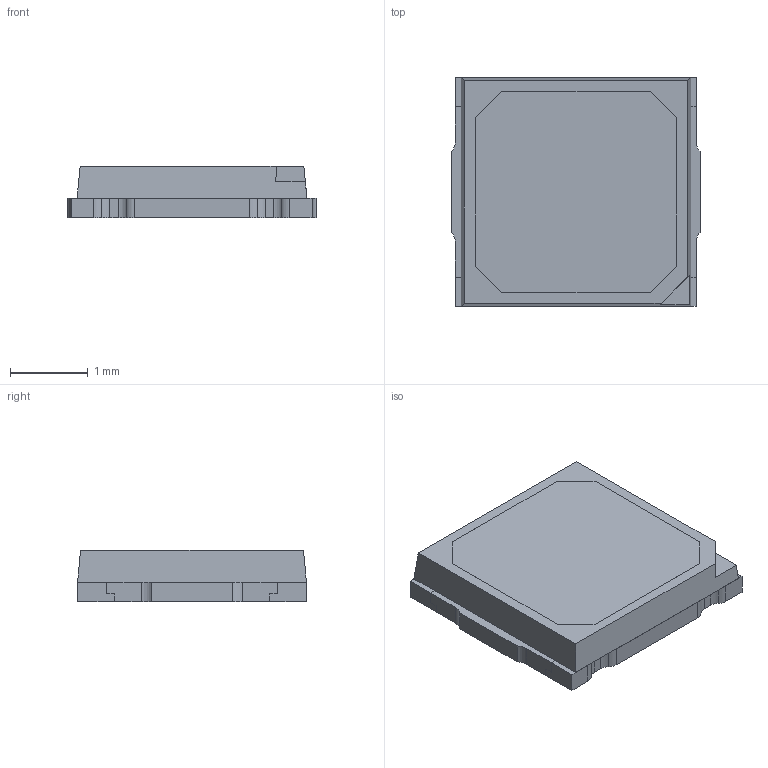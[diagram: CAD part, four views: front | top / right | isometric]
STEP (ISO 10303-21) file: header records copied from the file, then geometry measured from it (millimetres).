
FILE_DESCRIPTION (( 'STEP AP214' ), '1' );
FILE_NAME ('LWV.STEP', '2025-03-22T11:03:47', ( '' ), ( '' ), 'SwSTEP 2.0', 'SolidWorks 2022', '' );
FILE_SCHEMA (( 'AUTOMOTIVE_DESIGN' ));
Length unit declared in the file: millimetre
Products named in the file (1): LWV
Bounding box: 3.2 x 2.95 x 0.66 mm (x, y, z)
Volume: 5.8 mm3; surface area: 50.4 mm2
Topology: 4 solids, 4 shells, 156 faces, 440 edges, 293 vertices
Faces by surface type: plane 87, cylinder 69
Entity records: 6858 total; most frequent: CARTESIAN_POINT 917, DIRECTION 881, ORIENTED_EDGE 880, EDGE_CURVE 440, LINE 295, VECTOR 295, AXIS2_PLACEMENT_3D 293, VERTEX_POINT 293
